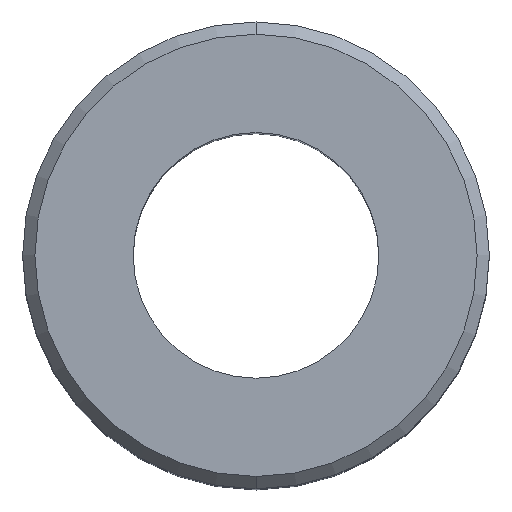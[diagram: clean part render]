
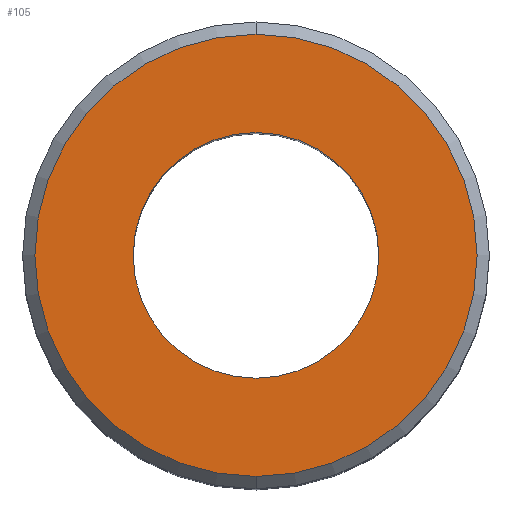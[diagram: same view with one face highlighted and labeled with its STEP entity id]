
A CAD part, top view. The second image highlights one B-rep face of the part: STEP entity #105.
In plain terms, the highlighted planar face has unit normal (0, 0, 1).
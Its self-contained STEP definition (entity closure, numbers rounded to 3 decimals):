
#2 = PLANE ( 'NONE',  #453 ) ;
#8 = DIRECTION ( 'NONE',  ( 0., -1., 0. ) ) ;
#16 = DIRECTION ( 'NONE',  ( 0., 0., 1. ) ) ;
#20 = ORIENTED_EDGE ( 'NONE', *, *, #168, .T. ) ;
#35 = CARTESIAN_POINT ( 'NONE',  ( 0., 9.5, 14.5 ) ) ;
#78 = CIRCLE ( 'NONE', #271, 5. ) ;
#105 = ADVANCED_FACE ( 'NONE', ( #517, #565 ), #2, .F. ) ;
#112 = DIRECTION ( 'NONE',  ( 0., 0., 1. ) ) ;
#124 = CARTESIAN_POINT ( 'NONE',  ( 0., 14.5, 14.5 ) ) ;
#145 = VERTEX_POINT ( 'NONE', #381 ) ;
#152 = DIRECTION ( 'NONE',  ( 0., 0., 1. ) ) ;
#154 = CARTESIAN_POINT ( 'NONE',  ( 0., 23.5, 14.5 ) ) ;
#167 = ORIENTED_EDGE ( 'NONE', *, *, #499, .F. ) ;
#168 = EDGE_CURVE ( 'NONE', #382, #259, #315, .T. ) ;
#200 = CARTESIAN_POINT ( 'NONE',  ( 0., 14.5, 14.5 ) ) ;
#245 = AXIS2_PLACEMENT_3D ( 'NONE', #302, #112, #544 ) ;
#252 = VERTEX_POINT ( 'NONE', #35 ) ;
#253 = CARTESIAN_POINT ( 'NONE',  ( 0., 14.5, 14.5 ) ) ;
#259 = VERTEX_POINT ( 'NONE', #414 ) ;
#271 = AXIS2_PLACEMENT_3D ( 'NONE', #253, #16, #8 ) ;
#279 = DIRECTION ( 'NONE',  ( 0., 1., 0. ) ) ;
#290 = ORIENTED_EDGE ( 'NONE', *, *, #501, .T. ) ;
#291 = DIRECTION ( 'NONE',  ( 0., 0., -1. ) ) ;
#302 = CARTESIAN_POINT ( 'NONE',  ( 0., 14.5, 14.5 ) ) ;
#315 = CIRCLE ( 'NONE', #589, 9. ) ;
#332 = DIRECTION ( 'NONE',  ( 0., 1., 0. ) ) ;
#348 = ORIENTED_EDGE ( 'NONE', *, *, #529, .F. ) ;
#378 = DIRECTION ( 'NONE',  ( 0., 0., 1. ) ) ;
#381 = CARTESIAN_POINT ( 'NONE',  ( 0., 19.5, 14.5 ) ) ;
#382 = VERTEX_POINT ( 'NONE', #154 ) ;
#386 = DIRECTION ( 'NONE',  ( 0., 1., 0. ) ) ;
#399 = CIRCLE ( 'NONE', #245, 5. ) ;
#414 = CARTESIAN_POINT ( 'NONE',  ( 0., 5.5, 14.5 ) ) ;
#420 = CARTESIAN_POINT ( 'NONE',  ( -9.5, 14.5, 14.5 ) ) ;
#430 = CIRCLE ( 'NONE', #590, 9. ) ;
#453 = AXIS2_PLACEMENT_3D ( 'NONE', #420, #291, #279 ) ;
#499 = EDGE_CURVE ( 'NONE', #145, #252, #78, .T. ) ;
#501 = EDGE_CURVE ( 'NONE', #259, #382, #430, .T. ) ;
#517 = FACE_BOUND ( 'NONE', #545, .T. ) ;
#523 = EDGE_LOOP ( 'NONE', ( #20, #290 ) ) ;
#529 = EDGE_CURVE ( 'NONE', #252, #145, #399, .T. ) ;
#544 = DIRECTION ( 'NONE',  ( 0., -1., 0. ) ) ;
#545 = EDGE_LOOP ( 'NONE', ( #348, #167 ) ) ;
#565 = FACE_OUTER_BOUND ( 'NONE', #523, .T. ) ;
#589 = AXIS2_PLACEMENT_3D ( 'NONE', #124, #378, #332 ) ;
#590 = AXIS2_PLACEMENT_3D ( 'NONE', #200, #152, #386 ) ;
